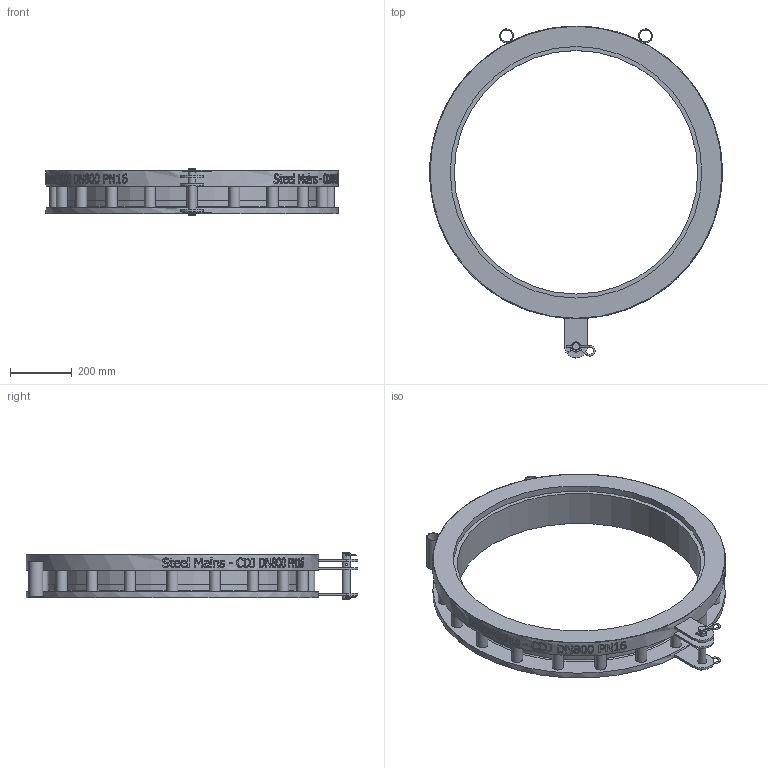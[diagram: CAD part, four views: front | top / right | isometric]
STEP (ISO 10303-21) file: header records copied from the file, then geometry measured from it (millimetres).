
FILE_DESCRIPTION(/* description */ (''),/* implementation_level */ '2;1');
FILE_NAME(/* name */ 'C:\Vault\Designs\Somerton\196\196-20 Models\Marketing Files\SteelMains - CDJ DN800 PN16 - (196-20T rev D).stp',/* time_stamp */ '2025-08-22T13:52:25+10:00',/* author */ ('Sam.Cavallaro'),/* organization */ (''),/* preprocessor_version */ 'ST-DEVELOPER v18.1',/* originating_system */ 'Autodesk Inventor 2021',/* authorisation */ '');
FILE_SCHEMA (('AUTOMOTIVE_DESIGN { 1 0 10303 214 3 1 1 }'));
Length unit declared in the file: millimetre
Products named in the file (1): SPS_ENG-084512
Bounding box: 948 x 1075.5 x 151 mm (x, y, z)
Volume: 18427680.7 mm3; surface area: 1795888.9 mm2
Topology: 6 solids, 6 shells, 827 faces, 2229 edges, 1487 vertices
Faces by surface type: bspline 402, plane 291, cylinder 121, torus 8, cone 5
Full cylindrical faces by diameter (mm): 4.8 x10, 6 x3, 25 x1, 30 x3, 36 x20, 38.1 x2, 44.5 x2, 789 x1, 809 x1, 813 x1, 815 x1, 948 x1
Entity records: 36565 total; most frequent: CARTESIAN_POINT 17841, ORIENTED_EDGE 4464, DIRECTION 2652, EDGE_CURVE 2232, VERTEX_POINT 1490, LINE 1020, VECTOR 1020, EDGE_LOOP 958
